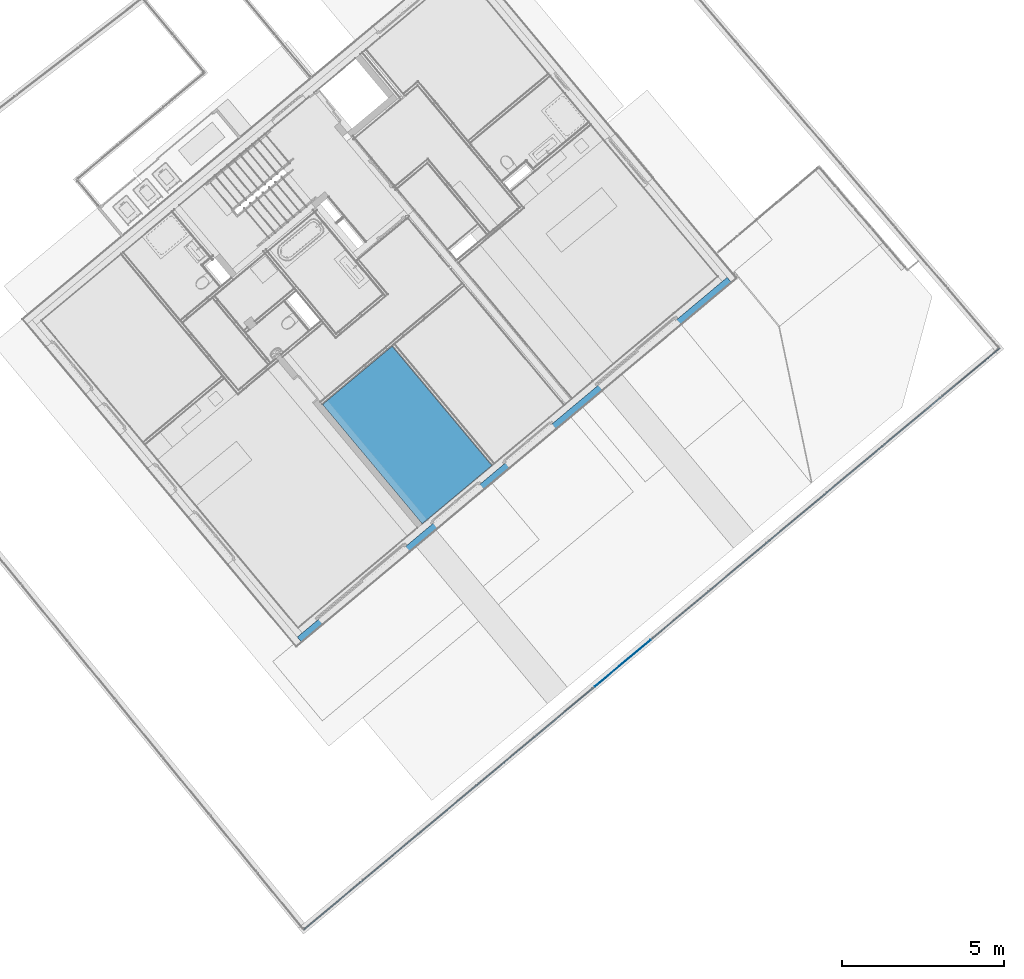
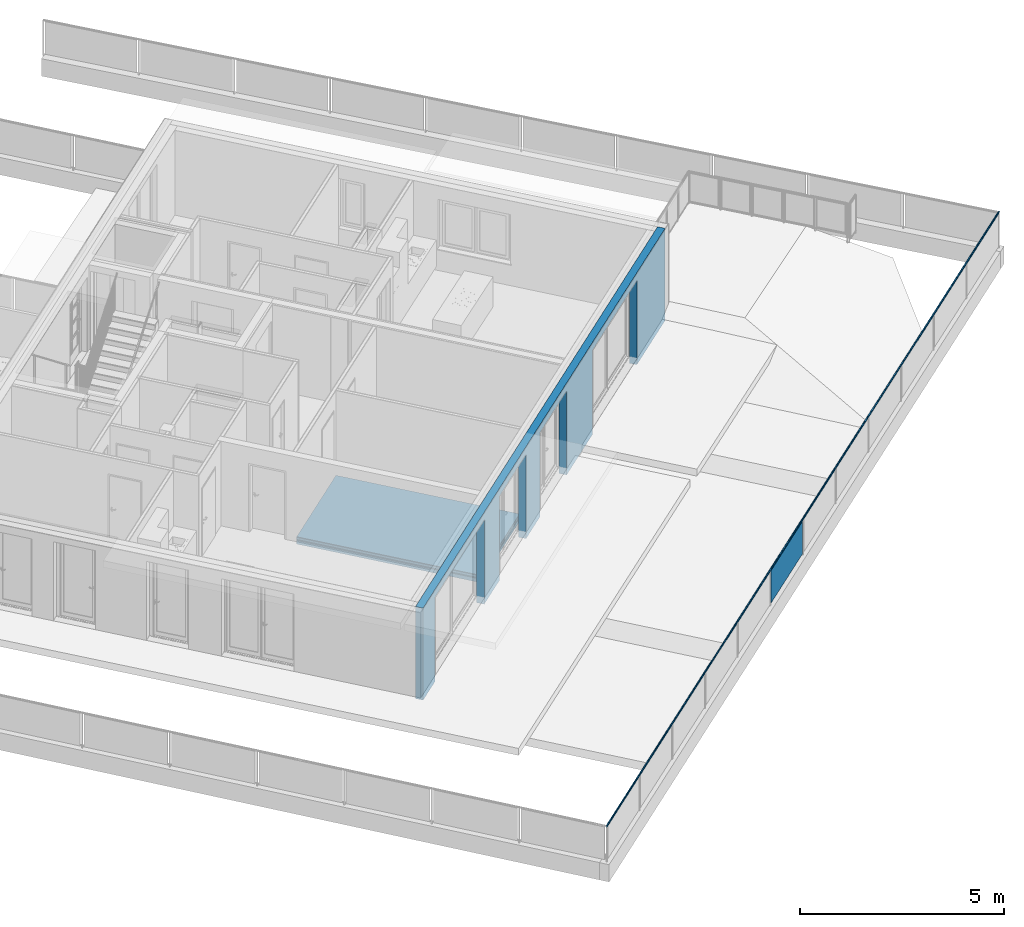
# One storey, part 24 of 67: 7 building element parts, 4 openings, 3 elements without a shape of their own.
"""IFC4 building model written with IfcOpenShell, lengths in metres."""

import ifcopenshell
import ifcopenshell.guid

model = None  # the IFC model being written
_history = None  # IfcOwnerHistory: only IFC2X3 demands one
_inside = {}  # id of a spatial element -> (the spatial element, [elements in it])
_under = {}  # id of a project, library or spatial element -> (it, [spatial elements below it])
_declared = {}  # id of a project -> (the project, [libraries it declares])
_typed = {}  # id of a type object -> (the type object, [elements of that type])
_made_of = {}  # id of a material, layer set ... -> (it, [elements and type objects made of it])


def new_model(schema):
    """Start an empty IFC model of exactly this schema.

    Asked for "IFC4X3", IfcOpenShell would pick the latest addendum, in which some entities
    have other attributes; the version numbers below select the first issue.
    IFC2X3 requires an IfcOwnerHistory on every rooted entity: one is made here for all.
    """
    global model, _history
    if schema == "IFC4X3":
        model = ifcopenshell.file(schema_version=(4, 3, 0, 0))
    else:
        model = ifcopenshell.file(schema=schema)
    _inside.clear()
    _under.clear()
    _declared.clear()
    _typed.clear()
    _made_of.clear()
    _history = None
    if model.schema == "IFC2X3":
        org = make("IfcOrganization", Name="unknown")
        user = make(
            "IfcPersonAndOrganization",
            ThePerson=make("IfcPerson", FamilyName="unknown"),
            TheOrganization=org,
        )
        app = make(
            "IfcApplication",
            ApplicationDeveloper=org,
            Version="unknown",
            ApplicationFullName="unknown",
            ApplicationIdentifier="unknown",
        )
        _history = make(
            "IfcOwnerHistory",
            OwningUser=user,
            OwningApplication=app,
            ChangeAction="ADDED",
            CreationDate=0,
        )
    return model


def make(cls, **values):
    """One entity of the class cls with the attributes given. An attribute that is None is left unset."""
    return model.create_entity(
        cls, **{name: value for name, value in values.items() if value is not None}
    )


def entity(cls, *values):
    """Any entity or typed value of the class cls, its attributes in the order of the schema. None: left unset."""
    e = model.create_entity(cls)
    for i, value in enumerate(values):
        if value is not None:
            e[i] = value
    return e


def rooted(cls, **values):
    """An entity with a GlobalId (a new one), such as an element, a storey or a relation."""
    return make(cls, GlobalId=ifcopenshell.guid.new(), OwnerHistory=_history, **values)


def si_unit(unit_type, name, prefix=None):
    """IfcSIUnit, for example si_unit("LENGTHUNIT", "METRE", prefix="MILLI")."""
    return make("IfcSIUnit", UnitType=unit_type, Prefix=prefix, Name=name)


def converted_unit(unit_type, name, factor, base, dimensions=None, offset=None):
    """IfcConversionBasedUnit, such as the inch: factor (a typed value) times the base unit."""
    return make(
        "IfcConversionBasedUnit"
        if offset is None
        else "IfcConversionBasedUnitWithOffset",
        ConversionOffset=offset,
        Dimensions=None
        if dimensions is None
        else entity("IfcDimensionalExponents", *dimensions),
        UnitType=unit_type,
        Name=name,
        ConversionFactor=make(
            "IfcMeasureWithUnit", ValueComponent=factor, UnitComponent=base
        ),
    )


def derived_unit(unit_type, elements):
    """IfcDerivedUnit: a product of units, each with its exponent."""
    return make(
        "IfcDerivedUnit",
        Elements=[
            make("IfcDerivedUnitElement", Unit=unit, Exponent=power)
            for unit, power in elements
        ],
        UnitType=unit_type,
    )


def assignment(units):
    """IfcUnitAssignment: the units of a project."""
    return None if units is None else make("IfcUnitAssignment", Units=units)


def point(xyz):
    """IfcCartesianPoint."""
    return None if xyz is None else make("IfcCartesianPoint", Coordinates=xyz)


def direction(xyz):
    """IfcDirection."""
    return None if xyz is None else make("IfcDirection", DirectionRatios=xyz)


def frame(location, z_axis=None, x_axis=None):
    """IfcAxis2Placement3D, a coordinate frame: its origin and axes. An axis left out is left unset."""
    return make(
        "IfcAxis2Placement3D",
        Location=point(location),
        Axis=direction(z_axis),
        RefDirection=direction(x_axis),
    )


def origin_with_axes():
    """The frame at (0, 0, 0) with the z axis (0, 0, 1) and the x axis (1, 0, 0) written out."""
    return frame((0.0, 0.0, 0.0), z_axis=(0.0, 0.0, 1.0), x_axis=(1.0, 0.0, 0.0))


def place(relative_to, where):
    """IfcLocalPlacement: puts the frame where relative to a parent placement (None: the world)."""
    return make(
        "IfcLocalPlacement", PlacementRelTo=relative_to, RelativePlacement=where
    )


def context(
    kind, dimensions, precision=None, world=None, true_north=None, identifier=None
):
    """IfcGeometricRepresentationContext, for example the 3D "Model" context."""
    return make(
        "IfcGeometricRepresentationContext",
        ContextIdentifier=identifier,
        ContextType=kind,
        CoordinateSpaceDimension=dimensions,
        Precision=precision,
        WorldCoordinateSystem=world,
        TrueNorth=true_north,
    )


def subcontext(parent, identifier, kind, view, scale=None):
    """IfcGeometricRepresentationSubContext, for example "Body" below "Model"."""
    return make(
        "IfcGeometricRepresentationSubContext",
        ContextIdentifier=identifier,
        ContextType=kind,
        ParentContext=parent,
        TargetScale=scale,
        TargetView=view,
    )


def project(units=None, contexts=None):
    """IfcProject with its units and contexts."""
    return rooted(
        "IfcProject",
        Name="project",
        RepresentationContexts=contexts,
        UnitsInContext=assignment(units),
    )


def spatial(cls, under=None, at=None, **own):
    """A site, building, storey or space (cls), placed at a placement, below another one or the project."""
    s = rooted(cls, ObjectPlacement=at, **own)
    if under is not None:
        _under.setdefault(under.id(), (under, []))[1].append(s)
    return s


def point_list(points):
    """IfcCartesianPointList2D or 3D."""
    cls = (
        "IfcCartesianPointList2D" if len(points[0]) == 2 else "IfcCartesianPointList3D"
    )
    return make(cls, CoordList=points)


def polygons(points, faces, closed=None, point_numbers=None):
    """IfcPolygonalFaceSet: a face is its outer loop, then its inner loops; points numbered from 1."""
    made = []
    for loops in faces:
        if len(loops) == 1:
            made.append(make("IfcIndexedPolygonalFace", CoordIndex=loops[0]))
        else:
            made.append(
                make(
                    "IfcIndexedPolygonalFaceWithVoids",
                    CoordIndex=loops[0],
                    InnerCoordIndices=loops[1:],
                )
            )
    return make(
        "IfcPolygonalFaceSet",
        Coordinates=point_list(points),
        Closed=closed,
        Faces=made,
        PnIndex=point_numbers,
    )


def shape(context_of_items, identifier, shape_type, items):
    """IfcShapeRepresentation: the items that make up one representation, for example the "Body"."""
    return make(
        "IfcShapeRepresentation",
        ContextOfItems=context_of_items,
        RepresentationIdentifier=identifier,
        RepresentationType=shape_type,
        Items=items,
    )


def material(Name=None, Category=None):
    """IfcMaterial."""
    return make("IfcMaterial", Name=Name, Category=Category)


def made_of(thing, what):
    """Note that an element or type object is made of a material, layer set ...; save() writes the relation."""
    if what is not None:
        _made_of.setdefault(what.id(), (what, []))[1].append(thing)
    return thing


def type_object(cls, material=None, **own):
    """A type object (cls), such as IfcWallType, which elements share."""
    return made_of(rooted(cls, **own), material)


def element(
    cls,
    number,
    at=None,
    inside=None,
    cuts=None,
    type_object=None,
    material=None,
    context=None,
    identifier="Body",
    shape_type=None,
    held_by="IfcProductDefinitionShape",
    body=None,
    shapes=None,
    **own,
):
    """One element of the class cls, such as IfcWall. Its Tag is "e" and its number.

    at: its placement. inside: the storey or other place that contains it. cuts: it is an
    opening in that element (IfcRelVoidsElement). A single representation is given by context,
    identifier, shape_type and body (its items); several are given by shapes. held_by: the class
    of the entity that holds the representations. save() writes the other relations.
    """
    e = rooted(cls, Tag="e%d" % number, ObjectPlacement=at, **own)
    if body is not None:
        shapes = [shape(context, identifier, shape_type, body)]
    if shapes is not None:
        e.Representation = make(held_by, Representations=shapes)
    if inside is not None:
        _inside.setdefault(inside.id(), (inside, []))[1].append(e)
    if cuts is not None:
        rooted(
            "IfcRelVoidsElement", RelatingBuildingElement=cuts, RelatedOpeningElement=e
        )
    if type_object is not None:
        _typed.setdefault(type_object.id(), (type_object, []))[1].append(e)
    return made_of(e, material)


def aggregate(whole, parts):
    """IfcRelAggregates: a whole, such as a stair, and the parts it consists of."""
    return rooted("IfcRelAggregates", RelatingObject=whole, RelatedObjects=parts)


def save(model, path):
    """Write the relations noted so far, then the file.

    IfcRelAggregates (storeys below a building ...), IfcRelContainedInSpatialStructure (elements
    in a storey), IfcRelDefinesByType, IfcRelAssociatesMaterial and IfcRelDeclares: one each for
    every whole, place, type object, material and project.
    """
    for whole, parts in _under.values():
        aggregate(whole, parts)
    for where, things in _inside.values():
        rooted(
            "IfcRelContainedInSpatialStructure",
            RelatedElements=things,
            RelatingStructure=where,
        )
    for kind, things in _typed.values():
        rooted("IfcRelDefinesByType", RelatedObjects=things, RelatingType=kind)
    for what, things in _made_of.values():
        rooted("IfcRelAssociatesMaterial", RelatedObjects=things, RelatingMaterial=what)
    for by, libraries in _declared.values():
        rooted("IfcRelDeclares", RelatingContext=by, RelatedDefinitions=libraries)
    model.write(path)


model = new_model("IFC4")

# Units and contexts
model_context = context("Model", 3, precision=1e-05, world=origin_with_axes(), true_north=direction((0.0, 1.0)))
body_context = subcontext(model_context, "Body", "Model", "MODEL_VIEW")
ifc_project = project(units=[si_unit("LENGTHUNIT", "METRE"), si_unit("AREAUNIT", "SQUARE_METRE"), si_unit("VOLUMEUNIT", "CUBIC_METRE"), converted_unit("PLANEANGLEUNIT", "DEGREE", entity("IfcPlaneAngleMeasure", 0.0174532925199), si_unit("PLANEANGLEUNIT", "RADIAN"), dimensions=[0, 0, 0, 0, 0, 0, 0]), converted_unit("TIMEUNIT", "Year", entity("IfcTimeMeasure", 31556926.0), si_unit("TIMEUNIT", "SECOND"), dimensions=[0, 0, 1, 0, 0, 0, 0]), si_unit("MASSUNIT", "GRAM", prefix="KILO"), si_unit("THERMODYNAMICTEMPERATUREUNIT", "DEGREE_CELSIUS"), si_unit("LUMINOUSINTENSITYUNIT", "LUMEN"), si_unit("ENERGYUNIT", "JOULE", prefix="MEGA"), derived_unit("THERMALCONDUCTANCEUNIT", [(si_unit("POWERUNIT", "WATT"), 1), (si_unit("LENGTHUNIT", "METRE"), -1), (si_unit("THERMODYNAMICTEMPERATUREUNIT", "KELVIN"), -1)]), derived_unit("SPECIFICHEATCAPACITYUNIT", [(si_unit("ENERGYUNIT", "JOULE"), 1), (si_unit("MASSUNIT", "GRAM", prefix="KILO"), -1), (si_unit("THERMODYNAMICTEMPERATUREUNIT", "KELVIN"), -1)]), derived_unit("MASSDENSITYUNIT", [(si_unit("MASSUNIT", "GRAM", prefix="KILO"), 1), (si_unit("VOLUMEUNIT", "CUBIC_METRE"), -1)])], contexts=[model_context])

# Site, building, storey
site_placement = place(None, frame((-0.00153261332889, -0.00661245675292, 0.0), z_axis=(0.0, 0.0, 1.0), x_axis=(1.0, 0.0, 0.0)))
site = spatial("IfcSite", under=ifc_project, at=site_placement, Name="Site", CompositionType="ELEMENT")
building_placement = place(site_placement, origin_with_axes())
building = spatial("IfcBuilding", under=site, at=building_placement, Name="Building", CompositionType="ELEMENT")
storey_placement = place(building_placement, frame((0.0, 0.0, -0.22), z_axis=(0.0, 0.0, 1.0), x_axis=(1.0, 0.0, 0.0)))
storey = spatial("IfcBuildingStorey", under=building, at=storey_placement, Name="EG", CompositionType="ELEMENT", Elevation=-0.22)

# Wall, openings, building element part
wall_type = type_object("IfcWallType", Name="AW EG 420", PredefinedType="NOTDEFINED")
wall_placement = place(storey_placement, frame((13.3977586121, 20.2788070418, 0.0), z_axis=(0.0, 0.0, 1.0), x_axis=(-0.766948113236, -0.641709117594, 0.0)))
wall = element("IfcWall", 1, at=wall_placement, inside=storey, type_object=wall_type, Name="Wand-002", PredefinedType="NOTDEFINED")
opening_1_placement = place(wall_placement, frame((14.9278241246, 0.0, 0.22), z_axis=(0.0, 0.0, 1.0), x_axis=(1.0, 0.0, 0.0)))
element("IfcOpeningElement", 2, at=opening_1_placement, cuts=wall, Name="Tür-001", context=body_context, identifier="Reference", shape_type="Tessellation", body=[
    polygons([(-1.76598893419, -0.215, -0.22), (-1.76598893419, -0.215, 2.31), (-1.76598893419, 8.73793494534, 2.31), (-1.76598893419, 8.73793494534, -0.22), (1.76598893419, -0.215, 2.31), (-1.81598893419, -0.215, -0.22), (-1.81598893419, -0.215, 2.36), (1.81598893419, -0.215, 2.36), (1.81598893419, -0.215, -0.22), (1.76598893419, -0.215, -0.22), (1.76598893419, 8.73793494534, 2.31), (1.76598893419, 8.73793494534, -0.22), (1.81598893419, -9.15793494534, -0.22), (-1.81598893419, -9.15793494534, -0.22), (-1.81598893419, -9.15793494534, 2.36), (1.81598893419, -9.15793494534, 2.36)], [[[1, 2, 3, 4]], [[5, 2, 1, 6, 7, 8, 9, 10]], [[2, 5, 11, 3]], [[11, 12, 4, 3]], [[1, 4, 12, 10, 9, 13, 14, 6]], [[7, 6, 14, 15]], [[8, 7, 15, 16]], [[9, 8, 16, 13]], [[5, 10, 12, 11]], [[15, 14, 13, 16]]], closed=True),
])
opening_2_placement = place(wall_placement, frame((3.83056216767, 0.0, 0.22), z_axis=(0.0, 0.0, 1.0), x_axis=(1.0, 0.0, 0.0)))
element("IfcOpeningElement", 3, at=opening_2_placement, cuts=wall, Name="Tür-001", context=body_context, identifier="Reference", shape_type="Tessellation", body=[
    polygons([(-1.59084421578, -0.215, -0.22), (-1.59084421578, -0.215, 2.31), (-1.59084421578, 8.73793494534, 2.31), (-1.59084421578, 8.73793494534, -0.22), (1.59084421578, -0.215, 2.31), (-1.64084421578, -0.215, -0.22), (-1.64084421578, -0.215, 2.36), (1.64084421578, -0.215, 2.36), (1.64084421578, -0.215, -0.22), (1.59084421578, -0.215, -0.22), (1.59084421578, 8.73793494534, 2.31), (1.59084421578, 8.73793494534, -0.22), (1.64084421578, -9.15793494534, -0.22), (-1.64084421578, -9.15793494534, -0.22), (-1.64084421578, -9.15793494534, 2.36), (1.64084421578, -9.15793494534, 2.36)], [[[1, 2, 3, 4]], [[5, 2, 1, 6, 7, 8, 9, 10]], [[2, 5, 11, 3]], [[11, 12, 4, 3]], [[1, 4, 12, 10, 9, 13, 14, 6]], [[7, 6, 14, 15]], [[8, 7, 15, 16]], [[9, 8, 16, 13]], [[5, 10, 12, 11]], [[15, 14, 13, 16]]], closed=True),
])
opening_3_placement = place(wall_placement, frame((11.1212452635, 0.0, 0.22), z_axis=(0.0, 0.0, 1.0), x_axis=(1.0, 0.0, 0.0)))
element("IfcOpeningElement", 4, at=opening_3_placement, cuts=wall, Name="Tür-002", context=body_context, identifier="Reference", shape_type="Tessellation", body=[
    polygons([(-0.95, -0.215, -0.22), (-0.95, -0.215, 2.31), (-0.95, 8.73793494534, 2.31), (-0.95, 8.73793494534, -0.22), (0.95, -0.215, 2.31), (-1.0, -0.215, -0.22), (-1.0, -0.215, 2.36), (1.0, -0.215, 2.36), (1.0, -0.215, -0.22), (0.95, -0.215, -0.22), (0.95, 8.73793494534, 2.31), (0.95, 8.73793494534, -0.22), (1.0, -9.15793494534, -0.22), (-1.0, -9.15793494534, -0.22), (-1.0, -9.15793494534, 2.36), (1.0, -9.15793494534, 2.36)], [[[1, 2, 3, 4]], [[5, 2, 1, 6, 7, 8, 9, 10]], [[2, 5, 11, 3]], [[11, 12, 4, 3]], [[1, 4, 12, 10, 9, 13, 14, 6]], [[7, 6, 14, 15]], [[8, 7, 15, 16]], [[9, 8, 16, 13]], [[5, 10, 12, 11]], [[15, 14, 13, 16]]], closed=True),
])
opening_4_placement = place(wall_placement, frame((8.21673950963, 0.0, 0.22), z_axis=(0.0, 0.0, 1.0), x_axis=(1.0, 0.0, 0.0)))
element("IfcOpeningElement", 5, at=opening_4_placement, cuts=wall, Name="Tür-002", context=body_context, identifier="Reference", shape_type="Tessellation", body=[
    polygons([(-0.95, -0.215, -0.22), (-0.95, -0.215, 2.31), (-0.95, 8.73793494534, 2.31), (-0.95, 8.73793494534, -0.22), (0.95, -0.215, 2.31), (-1.0, -0.215, -0.22), (-1.0, -0.215, 2.36), (1.0, -0.215, 2.36), (1.0, -0.215, -0.22), (0.95, -0.215, -0.22), (0.95, 8.73793494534, 2.31), (0.95, 8.73793494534, -0.22), (1.0, -9.15793494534, -0.22), (-1.0, -9.15793494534, -0.22), (-1.0, -9.15793494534, 2.36), (1.0, -9.15793494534, 2.36)], [[[1, 2, 3, 4]], [[5, 2, 1, 6, 7, 8, 9, 10]], [[2, 5, 11, 3]], [[11, 12, 4, 3]], [[1, 4, 12, 10, 9, 13, 14, 6]], [[7, 6, 14, 15]], [[8, 7, 15, 16]], [[9, 8, 16, 13]], [[5, 10, 12, 11]], [[15, 14, 13, 16]]], closed=True),
])
ifc_material_1 = material(Name="EPS 1")
building_element_part_1_placement = place(wall_placement, origin_with_axes())
building_element_part_1 = element("IfcBuildingElementPart", 6, at=building_element_part_1_placement, material=ifc_material_1, Name="EPS 1", PredefinedType="NOTDEFINED", context=body_context, shape_type="Tessellation", body=[
    polygons([(9.16673950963, -0.015, 0.0), (9.16673950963, -0.015, 2.53), (7.26673950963, -0.015, 2.53), (7.26673950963, -0.015, 0.0), (5.42140638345, -0.015, 0.0), (5.42140638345, -0.015, 2.53), (2.23971795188, -0.015, 2.53), (2.23971795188, -0.015, 0.0), (0.214990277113, -0.015, 0.0), (0.214990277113, -0.015, 2.76), (17.5373016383, -0.015, 2.76), (17.5373016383, -0.015, 0.0), (16.6938130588, -0.015, 0.0), (16.6938130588, -0.015, 2.53), (13.1618351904, -0.015, 2.53), (13.1618351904, -0.015, 0.0), (12.0712452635, -0.015, 0.0), (12.0712452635, -0.015, 2.53), (10.1712452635, -0.015, 2.53), (10.1712452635, -0.015, 0.0), (9.16673950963, -0.215, 0.0), (9.16673950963, -0.215, 2.53), (7.26673950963, -0.215, 2.53), (7.26673950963, -0.215, 0.0), (5.42140638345, -0.215, 0.0), (5.42140638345, -0.215, 2.53), (2.23971795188, -0.215, 2.53), (2.23971795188, -0.215, 0.0), (0.214860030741, -0.215, 0.0), (0.214860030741, -0.215, 2.76), (17.5371713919, -0.215, 2.76), (17.5371713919, -0.215, 0.0), (16.6938130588, -0.215, 0.0), (16.6938130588, -0.215, 2.53), (13.1618351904, -0.215, 2.53), (13.1618351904, -0.215, 0.0), (12.0712452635, -0.215, 0.0), (12.0712452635, -0.215, 2.53), (10.1712452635, -0.215, 2.53), (10.1712452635, -0.215, 0.0)], [[[1, 2, 3, 4, 5, 6, 7, 8, 9, 10, 11, 12, 13, 14, 15, 16, 17, 18, 19, 20]], [[2, 1, 21, 22]], [[3, 2, 22, 23]], [[4, 3, 23, 24]], [[4, 24, 25, 5]], [[25, 26, 6, 5]], [[26, 27, 7, 6]], [[27, 28, 8, 7]], [[29, 9, 8, 28]], [[29, 30, 10, 9]], [[31, 11, 10, 30]], [[11, 31, 32, 12]], [[32, 33, 13, 12]], [[34, 14, 13, 33]], [[35, 15, 14, 34]], [[36, 16, 15, 35]], [[17, 16, 36, 37]], [[17, 37, 38, 18]], [[18, 38, 39, 19]], [[19, 39, 40, 20]], [[21, 1, 20, 40]], [[22, 21, 40, 39, 38, 37, 36, 35, 34, 33, 32, 31, 30, 29, 28, 27, 26, 25, 24, 23]]], closed=True),
])
aggregate(wall, [building_element_part_1])

# Railing, building element parts
railing_type = type_object("IfcRailingType", Name="Geländerart", PredefinedType="NOTDEFINED")
railing_placement = place(storey_placement, frame((-12.1608341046, 23.557810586, 0.523948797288), z_axis=(0.0, 0.0, 1.0), x_axis=(1.0, 0.0, 0.0)))
railing = element("IfcRailing", 7, at=railing_placement, inside=storey, type_object=railing_type, Name="Geländer - 001", PredefinedType="NOTDEFINED")
ifc_material_2 = material(Name="Aluminium")
building_element_part_2_placement = place(railing_placement, origin_with_axes())
building_element_part_2 = element("IfcBuildingElementPart", 8, at=building_element_part_2_placement, material=ifc_material_2, Name="Aluminium", PredefinedType="NOTDEFINED", context=body_context, shape_type="Tessellation", body=[
    polygons([(12.1743936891, -23.4240304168, 1.07636363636), (12.1743622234, -23.4243631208, 1.07634109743), (33.6814073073, -5.45010254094, 1.07634109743), (33.6810736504, -5.45007498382, 1.07636363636), (12.1743936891, -23.4240304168, 1.07818181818), (12.1744019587, -23.4239429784, 1.07820551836), (12.1748432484, -23.4192769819, 1.0792391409), (12.1752909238, -23.4145434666, 1.07983921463), (12.1757415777, -23.4097784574, 1.08000117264), (12.1757501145, -23.4096881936, 1.08), (12.1757586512, -23.4095979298, 1.08000117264), (12.1762093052, -23.4048329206, 1.07983921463), (12.1766569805, -23.4000994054, 1.0792391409), (12.1770982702, -23.3954334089, 1.07820551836), (12.1771065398, -23.3953459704, 1.07818181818), (12.1771065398, -23.3953459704, 1.07636363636), (12.1771380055, -23.3950132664, 1.07634109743), (12.1772545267, -23.3937812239, 1.0761115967), (12.17736571, -23.3926056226, 1.07565956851), (12.1774681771, -23.3915221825, 1.07499874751), (12.1775588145, -23.3905638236, 1.0741492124), (12.1776348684, -23.3897596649, 1.07313677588), (12.1776940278, -23.3891341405, 1.07199220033), (12.1777344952, -23.3887062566, 1.07075026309), (12.177755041, -23.3884890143, 1.06944869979), (12.177755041, -23.3884890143, 1.06812705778), (12.1777344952, -23.3887062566, 1.06682549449), (12.1776940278, -23.3891341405, 1.06558355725), (12.1776348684, -23.3897596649, 1.06443898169), (12.1775588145, -23.3905638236, 1.06342654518), (12.1774681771, -23.3915221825, 1.06257701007), (12.17736571, -23.3926056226, 1.06191618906), (12.1772545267, -23.3937812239, 1.06146416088), (12.1771380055, -23.3950132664, 1.06123466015), (12.1771065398, -23.3953459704, 1.06121212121), (12.1771065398, -23.3953459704, 1.05818181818), (12.1770852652, -23.3955709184, 1.05810011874), (12.176986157, -23.3966188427, 1.05758389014), (12.1768965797, -23.3975659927, 1.05688326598), (12.1768192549, -23.3983835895, 1.05601953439), (12.1767565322, -23.3990467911, 1.05501893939), (12.1767103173, -23.3995354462, 1.05391188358), (12.1766820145, -23.3998347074, 1.05273200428), (12.1766724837, -23.3999354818, 1.05151515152), (12.1766820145, -23.3998347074, 1.05029829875), (12.1767103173, -23.3995354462, 1.04911841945), (12.1767565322, -23.3990467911, 1.04801136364), (12.1768192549, -23.3983835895, 1.04701076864), (12.1768965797, -23.3975659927, 1.04614703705), (12.176986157, -23.3966188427, 1.04544641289), (12.1770852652, -23.3955709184, 1.04493018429), (12.1771065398, -23.3953459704, 1.04484848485), (12.1771065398, -23.3953459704, 1.04), (12.1743936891, -23.4240304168, 1.04), (12.1743936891, -23.4240304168, 1.04484848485), (12.1744149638, -23.4238054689, 1.04493018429), (12.1745140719, -23.4227575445, 1.04544641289), (12.1746036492, -23.4218103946, 1.04614703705), (12.174680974, -23.4209927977, 1.04701076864), (12.1747436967, -23.4203295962, 1.04801136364), (12.1747899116, -23.419840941, 1.04911841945), (12.1748182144, -23.4195416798, 1.05029829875), (12.1748277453, -23.4194409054, 1.05151515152), (12.1748182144, -23.4195416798, 1.05273200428), (12.1747899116, -23.419840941, 1.05391188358), (12.1747436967, -23.4203295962, 1.05501893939), (12.174680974, -23.4209927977, 1.05601953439), (12.1746036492, -23.4218103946, 1.05688326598), (12.1745140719, -23.4227575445, 1.05758389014), (12.1744149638, -23.4238054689, 1.05810011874), (12.1743936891, -23.4240304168, 1.05818181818), (12.1743936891, -23.4240304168, 1.06121212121), (12.1743622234, -23.4243631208, 1.06123466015), (12.1742457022, -23.4255951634, 1.06146416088), (12.1741345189, -23.4267707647, 1.06191618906), (12.1740320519, -23.4278542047, 1.06257701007), (12.1739414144, -23.4288125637, 1.06342654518), (12.1738653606, -23.4296167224, 1.06443898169), (12.1738062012, -23.4302422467, 1.06558355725), (12.1737657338, -23.4306701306, 1.06682549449), (12.1737451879, -23.430887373, 1.06812705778), (12.1737451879, -23.430887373, 1.06944869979), (12.1737657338, -23.4306701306, 1.07075026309), (12.1738062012, -23.4302422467, 1.07199220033), (12.1738653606, -23.4296167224, 1.07313677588), (12.1739414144, -23.4288125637, 1.0741492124), (12.1740320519, -23.4278542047, 1.07499874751), (12.1741345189, -23.4267707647, 1.07565956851), (12.1742457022, -23.4255951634, 1.0761115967), (33.6826428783, -5.45020458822, 1.0761115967), (33.6838218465, -5.4503019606, 1.07565956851), (33.6849083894, -5.45039169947, 1.07499874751), (33.6858694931, -5.45047107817, 1.0741492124), (33.6866759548, -5.4505376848, 1.07313677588), (33.6873032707, -5.45058949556, 1.07199220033), (33.68773238, -5.45062493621, 1.07075026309), (33.6879502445, -5.4506429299, 1.06944869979), (33.6879502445, -5.4506429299, 1.06812705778), (33.68773238, -5.45062493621, 1.06682549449), (33.6873032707, -5.45058949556, 1.06558355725), (33.6866759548, -5.4505376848, 1.06443898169), (33.6858694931, -5.45047107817, 1.06342654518), (33.6849083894, -5.45039169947, 1.06257701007), (33.6838218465, -5.4503019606, 1.06191618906), (33.6826428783, -5.45020458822, 1.06146416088), (33.6814073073, -5.45010254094, 1.06123466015), (33.6810736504, -5.45007498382, 1.06121212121), (33.6810736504, -5.45007498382, 1.05818181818), (33.6808480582, -5.4500563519, 1.05810011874), (33.6797971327, -5.44996955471, 1.05758389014), (33.6788472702, -5.44989110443, 1.05688326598), (33.6780273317, -5.44982338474, 1.05601953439), (33.6773622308, -5.44976845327, 1.05501893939), (33.6768721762, -5.44972797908, 1.05391188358), (33.6765720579, -5.44970319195, 1.05273200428), (33.6764709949, -5.44969484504, 1.05151515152), (33.6765720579, -5.44970319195, 1.05029829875), (33.6768721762, -5.44972797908, 1.04911841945), (33.6773622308, -5.44976845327, 1.04801136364), (33.6780273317, -5.44982338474, 1.04701076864), (33.6788472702, -5.44989110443, 1.04614703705), (33.6797971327, -5.44996955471, 1.04544641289), (33.6808480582, -5.4500563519, 1.04493018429), (33.6810736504, -5.45007498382, 1.04484848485), (33.6810736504, -5.45007498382, 1.04), (33.6523070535, -5.4476991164, 1.04), (33.6523070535, -5.4476991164, 1.04484848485), (33.6525326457, -5.44771774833, 1.04493018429), (33.6535835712, -5.44780454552, 1.04544641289), (33.6545334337, -5.44788299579, 1.04614703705), (33.6553533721, -5.44795071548, 1.04701076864), (33.656018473, -5.44800564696, 1.04801136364), (33.6565085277, -5.44804612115, 1.04911841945), (33.656808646, -5.44807090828, 1.05029829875), (33.656909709, -5.44807925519, 1.05151515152), (33.656808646, -5.44807090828, 1.05273200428), (33.6565085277, -5.44804612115, 1.05391188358), (33.656018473, -5.44800564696, 1.05501893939), (33.6553533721, -5.44795071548, 1.05601953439), (33.6545334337, -5.44788299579, 1.05688326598), (33.6535835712, -5.44780454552, 1.05758389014), (33.6525326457, -5.44771774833, 1.05810011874), (33.6523070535, -5.4476991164, 1.05818181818), (33.6523070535, -5.4476991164, 1.06121212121), (33.6519733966, -5.44767155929, 1.06123466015), (33.6507378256, -5.44756951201, 1.06146416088), (33.6495588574, -5.44747213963, 1.06191618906), (33.6484723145, -5.44738240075, 1.06257701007), (33.6475112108, -5.44730302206, 1.06342654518), (33.6467047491, -5.44723641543, 1.06443898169), (33.6460774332, -5.44718460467, 1.06558355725), (33.6456483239, -5.44714916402, 1.06682549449), (33.6454304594, -5.44713117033, 1.06812705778), (33.6454304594, -5.44713117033, 1.06944869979), (33.6456483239, -5.44714916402, 1.07075026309), (33.6460774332, -5.44718460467, 1.07199220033), (33.6467047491, -5.44723641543, 1.07313677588), (33.6475112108, -5.44730302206, 1.0741492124), (33.6484723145, -5.44738240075, 1.07499874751), (33.6495588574, -5.44747213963, 1.07565956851), (33.6507378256, -5.44756951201, 1.0761115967), (33.6519733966, -5.44767155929, 1.07634109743), (33.6523070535, -5.4476991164, 1.07636363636), (33.6523070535, -5.4476991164, 1.07818181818), (33.6523947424, -5.44770635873, 1.07820551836), (33.657074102, -5.4480928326, 1.0792391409), (33.6618211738, -5.4484848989, 1.07983921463), (33.6665998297, -5.44887957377, 1.08000117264), (33.6666903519, -5.44888705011, 1.08), (33.6667808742, -5.44889452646, 1.08000117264), (33.6715595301, -5.44928920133, 1.07983921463), (33.6763066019, -5.44968126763, 1.0792391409), (33.6809859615, -5.45006774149, 1.07820551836), (33.6810736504, -5.45007498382, 1.07818181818)], [[[1, 2, 3, 4]], [[1, 5, 6, 7, 8, 9, 10, 11, 12, 13, 14, 15, 16, 17, 18, 19, 20, 21, 22, 23, 24, 25, 26, 27, 28, 29, 30, 31, 32, 33, 34, 35, 36, 37, 38, 39, 40, 41, 42, 43, 44, 45, 46, 47, 48, 49, 50, 51, 52, 53, 54, 55, 56, 57, 58, 59, 60, 61, 62, 63, 64, 65, 66, 67, 68, 69, 70, 71, 72, 73, 74, 75, 76, 77, 78, 79, 80, 81, 82, 83, 84, 85, 86, 87, 88, 89, 2]], [[2, 89, 90, 3]], [[4, 3, 90, 91, 92, 93, 94, 95, 96, 97, 98, 99, 100, 101, 102, 103, 104, 105, 106, 107, 108, 109, 110, 111, 112, 113, 114, 115, 116, 117, 118, 119, 120, 121, 122, 123, 124, 125, 126, 127, 128, 129, 130, 131, 132, 133, 134, 135, 136, 137, 138, 139, 140, 141, 142, 143, 144, 145, 146, 147, 148, 149, 150, 151, 152, 153, 154, 155, 156, 157, 158, 159, 160, 161, 162, 163, 164, 165, 166, 167, 168, 169, 170, 171, 172, 173, 174]], [[5, 1, 4, 174]], [[6, 5, 174, 173]], [[7, 6, 173, 172]], [[8, 7, 172, 171]], [[9, 8, 171, 170]], [[10, 9, 170, 169]], [[11, 10, 169, 168]], [[12, 11, 168, 167]], [[13, 12, 167, 166]], [[14, 13, 166, 165]], [[15, 14, 165, 164]], [[16, 15, 164, 163]], [[17, 16, 163, 162]], [[18, 17, 162, 161]], [[19, 18, 161, 160]], [[20, 19, 160, 159]], [[21, 20, 159, 158]], [[22, 21, 158, 157]], [[23, 22, 157, 156]], [[24, 23, 156, 155]], [[25, 24, 155, 154]], [[26, 25, 154, 153]], [[27, 26, 153, 152]], [[28, 27, 152, 151]], [[29, 28, 151, 150]], [[30, 29, 150, 149]], [[31, 30, 149, 148]], [[32, 31, 148, 147]], [[33, 32, 147, 146]], [[34, 33, 146, 145]], [[35, 34, 145, 144]], [[36, 35, 144, 143]], [[37, 36, 143, 142]], [[38, 37, 142, 141]], [[39, 38, 141, 140]], [[40, 39, 140, 139]], [[41, 40, 139, 138]], [[42, 41, 138, 137]], [[43, 42, 137, 136]], [[44, 43, 136, 135]], [[45, 44, 135, 134]], [[46, 45, 134, 133]], [[47, 46, 133, 132]], [[48, 47, 132, 131]], [[49, 48, 131, 130]], [[50, 49, 130, 129]], [[51, 50, 129, 128]], [[52, 51, 128, 127]], [[53, 52, 127, 126]], [[54, 53, 126, 125]], [[55, 54, 125, 124]], [[56, 55, 124, 123]], [[57, 56, 123, 122]], [[58, 57, 122, 121]], [[59, 58, 121, 120]], [[60, 59, 120, 119]], [[61, 60, 119, 118]], [[62, 61, 118, 117]], [[63, 62, 117, 116]], [[64, 63, 116, 115]], [[65, 64, 115, 114]], [[66, 65, 114, 113]], [[67, 66, 113, 112]], [[68, 67, 112, 111]], [[69, 68, 111, 110]], [[70, 69, 110, 109]], [[71, 70, 109, 108]], [[72, 71, 108, 107]], [[73, 72, 107, 106]], [[74, 73, 106, 105]], [[75, 74, 105, 104]], [[76, 75, 104, 103]], [[77, 76, 103, 102]], [[78, 77, 102, 101]], [[79, 78, 101, 100]], [[80, 79, 100, 99]], [[81, 80, 99, 98]], [[82, 81, 98, 97]], [[83, 82, 97, 96]], [[84, 83, 96, 95]], [[85, 84, 95, 94]], [[86, 85, 94, 93]], [[87, 86, 93, 92]], [[88, 87, 92, 91]], [[89, 88, 91, 90]]], closed=True),
])
ifc_material_3 = material(Name="Zaun")
building_element_part_3_placement = place(railing_placement, origin_with_axes())
building_element_part_3 = element("IfcBuildingElementPart", 9, at=building_element_part_3_placement, material=ifc_material_3, Name="Zaun", PredefinedType="NOTDEFINED", context=body_context, shape_type="Tessellation", body=[
    polygons([(22.8764418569, -14.4536781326, 0.05), (21.1622614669, -15.8862842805, 0.05), (21.1622614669, -15.8862842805, 1.03), (22.8764418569, -14.4536781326, 1.03), (21.1750869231, -15.9016305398, 0.05), (22.889267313, -14.4690243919, 0.05), (21.1750869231, -15.9016305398, 1.03), (22.889267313, -14.4690243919, 1.03)], [[[1, 2, 3, 4]], [[5, 2, 1, 6]], [[7, 3, 2, 5]], [[4, 3, 7, 8]], [[1, 4, 8, 6]], [[7, 5, 6, 8]]], closed=True),
])
aggregate(railing, [building_element_part_2, building_element_part_3])

# Covering, building element parts
covering_type = type_object("IfcCoveringType", Name="DE 01 Decke Wohnung/Wohnung Parkett 220", PredefinedType="NOTDEFINED")
covering_placement = place(storey_placement, frame((2.74397864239, 18.1786943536, 0.22), z_axis=(0.0, 0.0, 1.0), x_axis=(1.0, 0.0, 0.0)))
covering = element("IfcCovering", 10, at=covering_placement, inside=storey, type_object=covering_type, Name="Decke-007", PredefinedType="NOTDEFINED")
ifc_material_4 = material(Name="Parkett")
building_element_part_4_placement = place(covering_placement, origin_with_axes())
building_element_part_4 = element("IfcBuildingElementPart", 11, at=building_element_part_4_placement, material=ifc_material_4, Name="Parkett", PredefinedType="NOTDEFINED", context=body_context, shape_type="Tessellation", body=[
    polygons([(-2.15304181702, -1.79907785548, -0.015), (-2.15304181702, -1.79907785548, 0.0), (0.0, 0.0, 0.0), (0.0, 0.0, -0.015), (0.929751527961, -5.48840289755, -0.015), (0.929751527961, -5.48840289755, 0.0), (3.08162172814, -3.68792291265, 0.0), (3.08162172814, -3.68792291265, -0.015)], [[[1, 2, 3, 4]], [[5, 6, 2, 1]], [[3, 2, 6, 7]], [[4, 3, 7, 8]], [[4, 8, 5, 1]], [[8, 7, 6, 5]]], closed=True),
])
ifc_material_5 = material(Name="Estrich")
building_element_part_5_placement = place(covering_placement, origin_with_axes())
building_element_part_5 = element("IfcBuildingElementPart", 12, at=building_element_part_5_placement, material=ifc_material_5, Name="Estrich", PredefinedType="NOTDEFINED", context=body_context, shape_type="Tessellation", body=[
    polygons([(-2.15304181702, -1.79907785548, -0.08), (-2.15304181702, -1.79907785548, -0.015), (0.0, 0.0, -0.015), (0.0, 0.0, -0.08), (0.929751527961, -5.48840289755, -0.08), (0.929751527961, -5.48840289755, -0.015), (3.08162172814, -3.68792291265, -0.015), (3.08162172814, -3.68792291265, -0.08)], [[[1, 2, 3, 4]], [[5, 6, 2, 1]], [[3, 2, 6, 7]], [[4, 3, 7, 8]], [[4, 8, 5, 1]], [[8, 7, 6, 5]]], closed=True),
])
ifc_material_6 = material(Name="Trittschalldämmung")
building_element_part_6_placement = place(covering_placement, origin_with_axes())
building_element_part_6 = element("IfcBuildingElementPart", 13, at=building_element_part_6_placement, material=ifc_material_6, Name="Trittschalldämmung", PredefinedType="NOTDEFINED", context=body_context, shape_type="Tessellation", body=[
    polygons([(-2.15304181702, -1.79907785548, -0.11), (-2.15304181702, -1.79907785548, -0.08), (0.0, 0.0, -0.08), (0.0, 0.0, -0.11), (0.929751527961, -5.48840289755, -0.11), (0.929751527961, -5.48840289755, -0.08), (3.08162172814, -3.68792291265, -0.08), (3.08162172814, -3.68792291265, -0.11)], [[[1, 2, 3, 4]], [[5, 6, 2, 1]], [[3, 2, 6, 7]], [[4, 3, 7, 8]], [[4, 8, 5, 1]], [[8, 7, 6, 5]]], closed=True),
])
ifc_material_7 = material(Name="Schüttung")
building_element_part_7_placement = place(covering_placement, origin_with_axes())
building_element_part_7 = element("IfcBuildingElementPart", 14, at=building_element_part_7_placement, material=ifc_material_7, Name="Schüttung", PredefinedType="NOTDEFINED", context=body_context, shape_type="Tessellation", body=[
    polygons([(0.0, 0.0, -0.22), (-2.15304181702, -1.79907785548, -0.22), (-2.15304181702, -1.79907785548, -0.11), (0.0, 0.0, -0.11), (3.08162172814, -3.68792291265, -0.22), (0.929751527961, -5.48840289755, -0.22), (0.929751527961, -5.48840289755, -0.11), (3.08162172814, -3.68792291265, -0.11)], [[[1, 2, 3, 4]], [[1, 5, 6, 2]], [[2, 6, 7, 3]], [[4, 3, 7, 8]], [[5, 1, 4, 8]], [[6, 5, 8, 7]]], closed=True),
])
aggregate(covering, [building_element_part_4, building_element_part_5, building_element_part_6, building_element_part_7])

save(model, "model.ifc")
